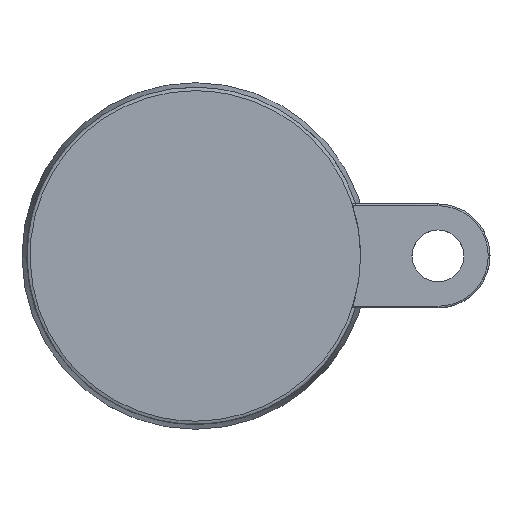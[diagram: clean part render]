
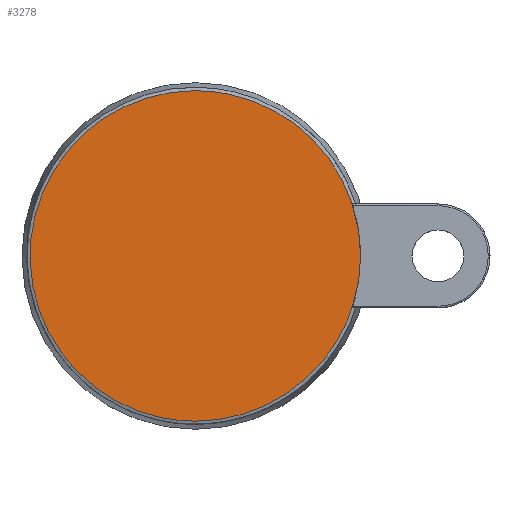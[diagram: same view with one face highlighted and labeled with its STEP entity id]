
A CAD part, top view. The second image highlights one B-rep face of the part: STEP entity #3278.
In plain terms, the highlighted planar face has unit normal (0, 0, 1).
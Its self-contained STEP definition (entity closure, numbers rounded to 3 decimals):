
#3198=CARTESIAN_POINT('',(-289.985,-548.11,-4.981));
#3199=DIRECTION('',(0.0,0.0,1.0));
#3200=DIRECTION('',(0.0,1.0,0.0));
#3201=AXIS2_PLACEMENT_3D('',#3198,#3199,#3200);
#3202=PLANE('',#3201);
#3203=CARTESIAN_POINT('',(-349.985,-440.439,-4.981));
#3204=VERTEX_POINT('',#3203);
#3205=CARTESIAN_POINT('',(-349.985,-535.779,-4.981));
#3206=VERTEX_POINT('',#3205);
#3207=CARTESIAN_POINT('',(-349.985,-440.439,-4.981));
#3208=CARTESIAN_POINT('',(-351.694,-440.439,-4.981));
#3209=CARTESIAN_POINT('',(-354.979,-440.616,-4.981));
#3210=CARTESIAN_POINT('',(-359.806,-441.381,-4.981));
#3211=CARTESIAN_POINT('',(-364.396,-442.587,-4.981));
#3212=CARTESIAN_POINT('',(-368.927,-444.275,-4.981));
#3213=CARTESIAN_POINT('',(-373.233,-446.399,-4.981));
#3214=CARTESIAN_POINT('',(-377.468,-449.053,-4.981));
#3215=CARTESIAN_POINT('',(-381.483,-452.198,-4.981));
#3216=CARTESIAN_POINT('',(-385.867,-456.496,-4.981));
#3217=CARTESIAN_POINT('',(-389.799,-461.585,-4.981));
#3218=CARTESIAN_POINT('',(-393.425,-468.041,-4.981));
#3219=CARTESIAN_POINT('',(-395.823,-474.39,-4.981));
#3220=CARTESIAN_POINT('',(-397.145,-480.517,-4.981));
#3221=CARTESIAN_POINT('',(-397.653,-485.468,-4.981));
#3222=CARTESIAN_POINT('',(-397.688,-490.021,-4.981));
#3223=CARTESIAN_POINT('',(-397.295,-494.528,-4.981));
#3224=CARTESIAN_POINT('',(-396.441,-499.137,-4.981));
#3225=CARTESIAN_POINT('',(-395.135,-503.648,-4.981));
#3226=CARTESIAN_POINT('',(-393.341,-508.116,-4.981));
#3227=CARTESIAN_POINT('',(-391.097,-512.405,-4.981));
#3228=CARTESIAN_POINT('',(-388.229,-516.733,-4.981));
#3229=CARTESIAN_POINT('',(-384.658,-520.998,-4.981));
#3230=CARTESIAN_POINT('',(-380.435,-524.939,-4.981));
#3231=CARTESIAN_POINT('',(-375.986,-528.179,-4.981));
#3232=CARTESIAN_POINT('',(-370.947,-531.06,-4.981));
#3233=CARTESIAN_POINT('',(-365.062,-533.518,-4.981));
#3234=CARTESIAN_POINT('',(-358.964,-535.055,-4.981));
#3235=CARTESIAN_POINT('',(-353.859,-535.68,-4.981));
#3236=CARTESIAN_POINT('',(-351.149,-535.779,-4.981));
#3237=CARTESIAN_POINT('',(-349.985,-535.779,-4.981));
#3238=B_SPLINE_CURVE_WITH_KNOTS('',3,(#3207,#3208,#3209,#3210,#3211,#3212,#3213,#3214,#3215,#3216,#3217,#3218,#3219,#3220,#3221,#3222,#3223,#3224,#3225,#3226,#3227,#3228,#3229,#3230,#3231,#3232,#3233,#3234,#3235,#3236,#3237),.UNSPECIFIED.,.F.,.U.,(4,1,1,1,1,1,1,1,1,1,1,1,1,1,1,1,1,1,1,1,1,1,1,1,1,1,1,1,4),(0.0,5.129,9.854,14.642,19.349,24.342,29.027,34.324,39.619,47.418,53.552,61.785,67.703,72.322,76.697,81.348,85.877,90.745,95.419,100.304,105.248,110.974,116.959,122.544,127.459,134.349,141.627,146.268,149.76),.UNSPECIFIED.);
#3239=EDGE_CURVE('',#3204,#3206,#3238,.T.);
#3240=ORIENTED_EDGE('',*,*,#3239,.T.);
#3241=CARTESIAN_POINT('',(-349.985,-535.779,-4.981));
#3242=CARTESIAN_POINT('',(-349.686,-535.779,-4.981));
#3243=CARTESIAN_POINT('',(-347.845,-535.762,-4.981));
#3244=CARTESIAN_POINT('',(-344.505,-535.537,-4.981));
#3245=CARTESIAN_POINT('',(-339.906,-534.78,-4.981));
#3246=CARTESIAN_POINT('',(-335.36,-533.565,-4.981));
#3247=CARTESIAN_POINT('',(-330.867,-531.865,-4.981));
#3248=CARTESIAN_POINT('',(-326.562,-529.722,-4.981));
#3249=CARTESIAN_POINT('',(-322.287,-527.022,-4.981));
#3250=CARTESIAN_POINT('',(-317.998,-523.612,-4.981));
#3251=CARTESIAN_POINT('',(-313.928,-519.48,-4.981));
#3252=CARTESIAN_POINT('',(-310.481,-514.976,-4.981));
#3253=CARTESIAN_POINT('',(-307.651,-510.242,-4.981));
#3254=CARTESIAN_POINT('',(-305.017,-504.445,-4.981));
#3255=CARTESIAN_POINT('',(-303.262,-498.339,-4.981));
#3256=CARTESIAN_POINT('',(-302.435,-492.46,-4.981));
#3257=CARTESIAN_POINT('',(-302.245,-487.77,-4.981));
#3258=CARTESIAN_POINT('',(-302.488,-483.266,-4.981));
#3259=CARTESIAN_POINT('',(-303.181,-478.674,-4.981));
#3260=CARTESIAN_POINT('',(-304.324,-474.141,-4.981));
#3261=CARTESIAN_POINT('',(-305.959,-469.621,-4.981));
#3262=CARTESIAN_POINT('',(-308.032,-465.302,-4.981));
#3263=CARTESIAN_POINT('',(-310.645,-461.028,-4.981));
#3264=CARTESIAN_POINT('',(-313.914,-456.772,-4.981));
#3265=CARTESIAN_POINT('',(-317.97,-452.619,-4.981));
#3266=CARTESIAN_POINT('',(-322.501,-449.021,-4.981));
#3267=CARTESIAN_POINT('',(-327.168,-446.148,-4.981));
#3268=CARTESIAN_POINT('',(-332.665,-443.538,-4.981));
#3269=CARTESIAN_POINT('',(-338.808,-441.585,-4.981));
#3270=CARTESIAN_POINT('',(-344.949,-440.604,-4.981));
#3271=CARTESIAN_POINT('',(-348.527,-440.439,-4.981));
#3272=CARTESIAN_POINT('',(-349.985,-440.439,-4.981));
#3273=B_SPLINE_CURVE_WITH_KNOTS('',3,(#3241,#3242,#3243,#3244,#3245,#3246,#3247,#3248,#3249,#3250,#3251,#3252,#3253,#3254,#3255,#3256,#3257,#3258,#3259,#3260,#3261,#3262,#3263,#3264,#3265,#3266,#3267,#3268,#3269,#3270,#3271,#3272),.UNSPECIFIED.,.F.,.U.,(4,1,1,1,1,1,1,1,1,1,1,1,1,1,1,1,1,1,1,1,1,1,1,1,1,1,1,1,1,4),(149.76,150.657,155.283,159.79,164.624,169.38,174.186,179.032,184.529,190.595,196.398,201.511,207.119,215.466,220.499,224.905,229.534,234.015,238.821,243.54,248.416,253.174,258.55,264.488,270.558,275.873,280.902,288.788,295.145,299.519),.UNSPECIFIED.);
#3274=EDGE_CURVE('',#3206,#3204,#3273,.T.);
#3275=ORIENTED_EDGE('',*,*,#3274,.T.);
#3276=EDGE_LOOP('',(#3240,#3275));
#3277=FACE_OUTER_BOUND('',#3276,.T.);
#3278=ADVANCED_FACE('',(#3277),#3202,.T.);
